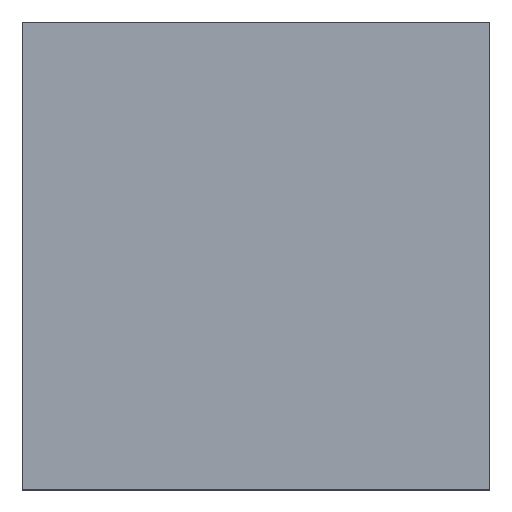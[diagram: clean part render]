
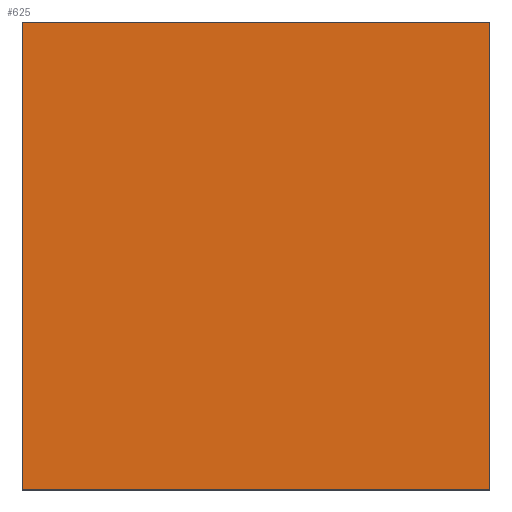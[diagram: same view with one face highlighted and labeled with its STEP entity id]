
A CAD part, top view. The second image highlights one B-rep face of the part: STEP entity #625.
In plain terms, the highlighted planar face has unit normal (0, 0, 1).
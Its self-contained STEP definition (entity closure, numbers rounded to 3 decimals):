
#63 = ORIENTED_EDGE ( 'NONE', *, *, #685, .T. ) ;
#107 = VERTEX_POINT ( 'NONE', #631 ) ;
#108 = CARTESIAN_POINT ( 'NONE',  ( 0., 0., 12.5 ) ) ;
#126 = DIRECTION ( 'NONE',  ( 0., 0., -1. ) ) ;
#173 = EDGE_CURVE ( 'NONE', #362, #850, #411, .T. ) ;
#214 = LINE ( 'NONE', #108, #1363 ) ;
#268 = VECTOR ( 'NONE', #758, 1000. ) ;
#327 = CARTESIAN_POINT ( 'NONE',  ( 50., 0., 12.5 ) ) ;
#342 = ORIENTED_EDGE ( 'NONE', *, *, #1292, .T. ) ;
#347 = DIRECTION ( 'NONE',  ( 1., 0., 0. ) ) ;
#362 = VERTEX_POINT ( 'NONE', #997 ) ;
#411 = LINE ( 'NONE', #1273, #480 ) ;
#419 = DIRECTION ( 'NONE',  ( -1., 0., 0. ) ) ;
#426 = EDGE_LOOP ( 'NONE', ( #1031, #342, #63, #1398 ) ) ;
#480 = VECTOR ( 'NONE', #419, 1000. ) ;
#502 = AXIS2_PLACEMENT_3D ( 'NONE', #556, #126, #966 ) ;
#548 = DIRECTION ( 'NONE',  ( 0., -1., 0. ) ) ;
#556 = CARTESIAN_POINT ( 'NONE',  ( 0., 0., 12.5 ) ) ;
#625 = ADVANCED_FACE ( 'NONE', ( #1172 ), #856, .F. ) ;
#631 = CARTESIAN_POINT ( 'NONE',  ( 0., 0., 12.5 ) ) ;
#651 = VECTOR ( 'NONE', #347, 1000. ) ;
#685 = EDGE_CURVE ( 'NONE', #1024, #362, #1294, .T. ) ;
#758 = DIRECTION ( 'NONE',  ( 0., 1., 0. ) ) ;
#850 = VERTEX_POINT ( 'NONE', #940 ) ;
#851 = CARTESIAN_POINT ( 'NONE',  ( 50., 0., 12.5 ) ) ;
#856 = PLANE ( 'NONE',  #502 ) ;
#940 = CARTESIAN_POINT ( 'NONE',  ( 0., 50., 12.5 ) ) ;
#966 = DIRECTION ( 'NONE',  ( -1., 0., 0. ) ) ;
#981 = LINE ( 'NONE', #1092, #651 ) ;
#997 = CARTESIAN_POINT ( 'NONE',  ( 50., 50., 12.5 ) ) ;
#1024 = VERTEX_POINT ( 'NONE', #851 ) ;
#1026 = EDGE_CURVE ( 'NONE', #850, #107, #214, .T. ) ;
#1031 = ORIENTED_EDGE ( 'NONE', *, *, #1026, .T. ) ;
#1092 = CARTESIAN_POINT ( 'NONE',  ( 0., 0., 12.5 ) ) ;
#1172 = FACE_OUTER_BOUND ( 'NONE', #426, .T. ) ;
#1273 = CARTESIAN_POINT ( 'NONE',  ( 0., 50., 12.5 ) ) ;
#1292 = EDGE_CURVE ( 'NONE', #107, #1024, #981, .T. ) ;
#1294 = LINE ( 'NONE', #327, #268 ) ;
#1363 = VECTOR ( 'NONE', #548, 1000. ) ;
#1398 = ORIENTED_EDGE ( 'NONE', *, *, #173, .T. ) ;
